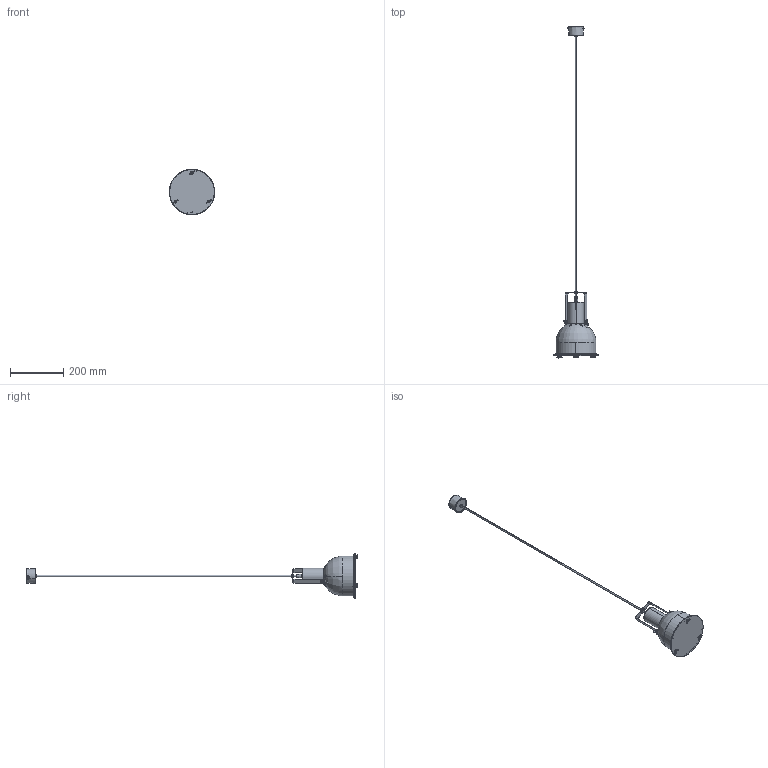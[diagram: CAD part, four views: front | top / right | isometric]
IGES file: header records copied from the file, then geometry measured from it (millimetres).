
Start section: SolidWorks IGES file using analytic representation for surfaces
Global section: file name: C:\Users\Asia\Desktop\INDUSTRIAL\Industrial S_zwis.IGS; native system: SolidWorks 2016; preprocessor: SolidWorks 2016; author: Asia; date: 161014.102931; units: millimetre
Bounding box: 170 x 1244.88 x 170 mm (x, y, z)
Surface area: 283120 mm2 (no closed solid volume)
Topology: 0 solids, 0 shells, 810 faces, 9815 edges, 9694 vertices
Faces by surface type: bspline 467, revolution 343
